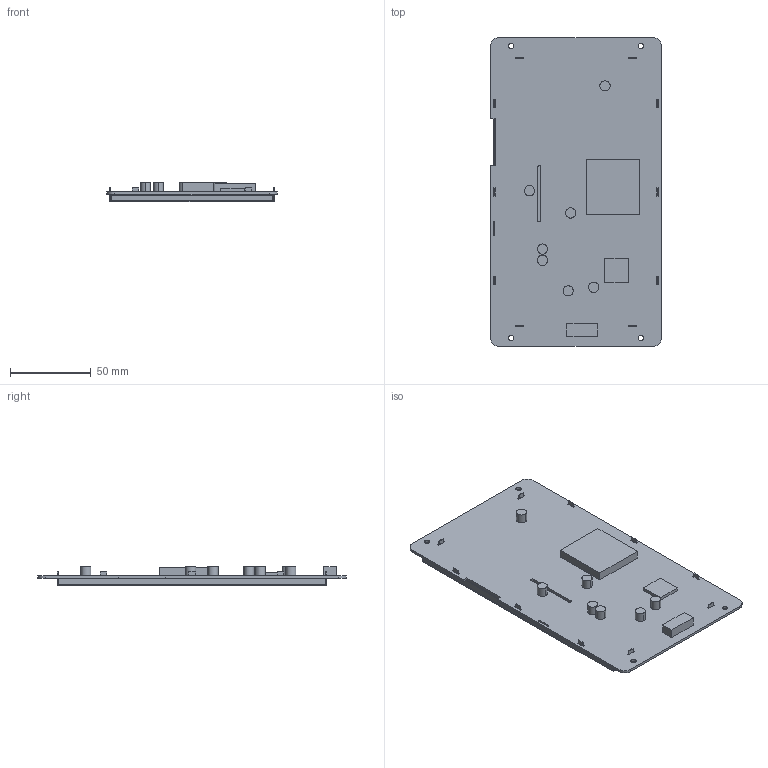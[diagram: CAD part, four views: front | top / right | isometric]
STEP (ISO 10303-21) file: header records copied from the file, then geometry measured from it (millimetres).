
FILE_DESCRIPTION((''),'2;1');
FILE_NAME('DMG80480T070-05WN','2022-03-21T',('Administrator'),(''),'PRO/ENGINEER BY PARAMETRIC TECHNOLOGY CORPORATION, 2011310','PRO/ENGINEER BY PARAMETRIC TECHNOLOGY CORPORATION, 2011310','');
FILE_SCHEMA(('CONFIG_CONTROL_DESIGN','SHAPE_APPEARANCE_LAYERS_GROUPS'));
Length unit declared in the file: millimetre
Products named in the file (1): DMG80480T070-05WN
Bounding box: 105.41 x 190.5 x 11.9 mm (x, y, z)
Volume: 94688.2 mm3; surface area: 83193.1 mm2
Topology: 1 solids, 1 shells, 204 faces, 618 edges, 396 vertices
Faces by surface type: plane 174, cylinder 30
Entity records: 8301 total; most frequent: ORIENTED_EDGE 1236, CARTESIAN_POINT 1218, DIRECTION 1090, EDGE_CURVE 618, VECTOR 554, LINE 554, VERTEX_POINT 396, AXIS2_PLACEMENT_3D 268
